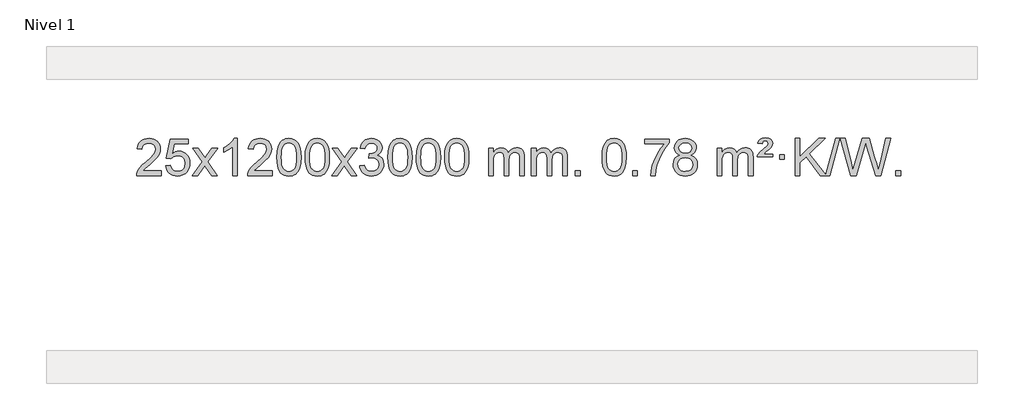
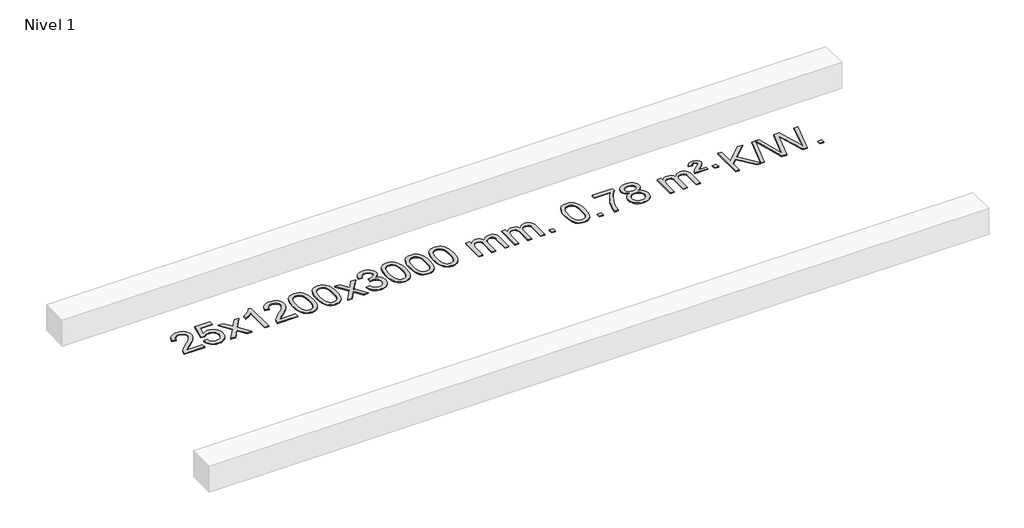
# One storey, part 6 of 6: 1 proxy.
"""IFC4 building model written with IfcOpenShell, lengths in millimetres."""

import ifcopenshell
import ifcopenshell.guid

model = None  # the IFC model being written
_history = None  # IfcOwnerHistory: only IFC2X3 demands one
_inside = {}  # id of a spatial element -> (the spatial element, [elements in it])
_under = {}  # id of a project, library or spatial element -> (it, [spatial elements below it])
_declared = {}  # id of a project -> (the project, [libraries it declares])
_typed = {}  # id of a type object -> (the type object, [elements of that type])
_made_of = {}  # id of a material, layer set ... -> (it, [elements and type objects made of it])


def new_model(schema):
    """Start an empty IFC model of exactly this schema.

    Asked for "IFC4X3", IfcOpenShell would pick the latest addendum, in which some entities
    have other attributes; the version numbers below select the first issue.
    IFC2X3 requires an IfcOwnerHistory on every rooted entity: one is made here for all.
    """
    global model, _history
    if schema == "IFC4X3":
        model = ifcopenshell.file(schema_version=(4, 3, 0, 0))
    else:
        model = ifcopenshell.file(schema=schema)
    _inside.clear()
    _under.clear()
    _declared.clear()
    _typed.clear()
    _made_of.clear()
    _history = None
    if model.schema == "IFC2X3":
        org = make("IfcOrganization", Name="unknown")
        user = make(
            "IfcPersonAndOrganization",
            ThePerson=make("IfcPerson", FamilyName="unknown"),
            TheOrganization=org,
        )
        app = make(
            "IfcApplication",
            ApplicationDeveloper=org,
            Version="unknown",
            ApplicationFullName="unknown",
            ApplicationIdentifier="unknown",
        )
        _history = make(
            "IfcOwnerHistory",
            OwningUser=user,
            OwningApplication=app,
            ChangeAction="ADDED",
            CreationDate=0,
        )
    return model


def make(cls, **values):
    """One entity of the class cls with the attributes given. An attribute that is None is left unset."""
    return model.create_entity(
        cls, **{name: value for name, value in values.items() if value is not None}
    )


def rooted(cls, **values):
    """An entity with a GlobalId (a new one), such as an element, a storey or a relation."""
    return make(cls, GlobalId=ifcopenshell.guid.new(), OwnerHistory=_history, **values)


def si_unit(unit_type, name, prefix=None):
    """IfcSIUnit, for example si_unit("LENGTHUNIT", "METRE", prefix="MILLI")."""
    return make("IfcSIUnit", UnitType=unit_type, Prefix=prefix, Name=name)


def assignment(units):
    """IfcUnitAssignment: the units of a project."""
    return None if units is None else make("IfcUnitAssignment", Units=units)


def point(xyz):
    """IfcCartesianPoint."""
    return None if xyz is None else make("IfcCartesianPoint", Coordinates=xyz)


def direction(xyz):
    """IfcDirection."""
    return None if xyz is None else make("IfcDirection", DirectionRatios=xyz)


def frame(location, z_axis=None, x_axis=None):
    """IfcAxis2Placement3D, a coordinate frame: its origin and axes. An axis left out is left unset."""
    return make(
        "IfcAxis2Placement3D",
        Location=point(location),
        Axis=direction(z_axis),
        RefDirection=direction(x_axis),
    )


def origin():
    """The frame at (0, 0, 0) with its axes left unset."""
    return frame((0.0, 0.0, 0.0))


def origin_with_axes():
    """The frame at (0, 0, 0) with the z axis (0, 0, 1) and the x axis (1, 0, 0) written out."""
    return frame((0.0, 0.0, 0.0), z_axis=(0.0, 0.0, 1.0), x_axis=(1.0, 0.0, 0.0))


def place(relative_to, where):
    """IfcLocalPlacement: puts the frame where relative to a parent placement (None: the world)."""
    return make(
        "IfcLocalPlacement", PlacementRelTo=relative_to, RelativePlacement=where
    )


def context(
    kind, dimensions, precision=None, world=None, true_north=None, identifier=None
):
    """IfcGeometricRepresentationContext, for example the 3D "Model" context."""
    return make(
        "IfcGeometricRepresentationContext",
        ContextIdentifier=identifier,
        ContextType=kind,
        CoordinateSpaceDimension=dimensions,
        Precision=precision,
        WorldCoordinateSystem=world,
        TrueNorth=true_north,
    )


def project(units=None, contexts=None):
    """IfcProject with its units and contexts."""
    return rooted(
        "IfcProject",
        Name="project",
        RepresentationContexts=contexts,
        UnitsInContext=assignment(units),
    )


def spatial(cls, under=None, at=None, **own):
    """A site, building, storey or space (cls), placed at a placement, below another one or the project."""
    s = rooted(cls, ObjectPlacement=at, **own)
    if under is not None:
        _under.setdefault(under.id(), (under, []))[1].append(s)
    return s


def polyline(points):
    """IfcPolyline through the points."""
    return make("IfcPolyline", Points=[point(p) for p in points])


def outline(outer, holes=None, kind="AREA"):
    """IfcArbitraryClosedProfileDef: a profile drawn as a closed curve; with holes, ...WithVoids."""
    if holes is None:
        return make("IfcArbitraryClosedProfileDef", ProfileType=kind, OuterCurve=outer)
    return make(
        "IfcArbitraryProfileDefWithVoids",
        ProfileType=kind,
        OuterCurve=outer,
        InnerCurves=holes,
    )


def extrude(swept, where, along, depth):
    """IfcExtrudedAreaSolid: the profile swept, set in the frame where, extruded along a direction by depth."""
    return make(
        "IfcExtrudedAreaSolid",
        SweptArea=swept,
        Position=where,
        ExtrudedDirection=direction(along),
        Depth=depth,
    )


def shape(context_of_items, identifier, shape_type, items):
    """IfcShapeRepresentation: the items that make up one representation, for example the "Body"."""
    return make(
        "IfcShapeRepresentation",
        ContextOfItems=context_of_items,
        RepresentationIdentifier=identifier,
        RepresentationType=shape_type,
        Items=items,
    )


def made_of(thing, what):
    """Note that an element or type object is made of a material, layer set ...; save() writes the relation."""
    if what is not None:
        _made_of.setdefault(what.id(), (what, []))[1].append(thing)
    return thing


def element(
    cls,
    number,
    at=None,
    inside=None,
    cuts=None,
    type_object=None,
    material=None,
    context=None,
    identifier="Body",
    shape_type=None,
    held_by="IfcProductDefinitionShape",
    body=None,
    shapes=None,
    **own,
):
    """One element of the class cls, such as IfcWall. Its Tag is "e" and its number.

    at: its placement. inside: the storey or other place that contains it. cuts: it is an
    opening in that element (IfcRelVoidsElement). A single representation is given by context,
    identifier, shape_type and body (its items); several are given by shapes. held_by: the class
    of the entity that holds the representations. save() writes the other relations.
    """
    e = rooted(cls, Tag="e%d" % number, ObjectPlacement=at, **own)
    if body is not None:
        shapes = [shape(context, identifier, shape_type, body)]
    if shapes is not None:
        e.Representation = make(held_by, Representations=shapes)
    if inside is not None:
        _inside.setdefault(inside.id(), (inside, []))[1].append(e)
    if cuts is not None:
        rooted(
            "IfcRelVoidsElement", RelatingBuildingElement=cuts, RelatedOpeningElement=e
        )
    if type_object is not None:
        _typed.setdefault(type_object.id(), (type_object, []))[1].append(e)
    return made_of(e, material)


def aggregate(whole, parts):
    """IfcRelAggregates: a whole, such as a stair, and the parts it consists of."""
    return rooted("IfcRelAggregates", RelatingObject=whole, RelatedObjects=parts)


def save(model, path):
    """Write the relations noted so far, then the file.

    IfcRelAggregates (storeys below a building ...), IfcRelContainedInSpatialStructure (elements
    in a storey), IfcRelDefinesByType, IfcRelAssociatesMaterial and IfcRelDeclares: one each for
    every whole, place, type object, material and project.
    """
    for whole, parts in _under.values():
        aggregate(whole, parts)
    for where, things in _inside.values():
        rooted(
            "IfcRelContainedInSpatialStructure",
            RelatedElements=things,
            RelatingStructure=where,
        )
    for kind, things in _typed.values():
        rooted("IfcRelDefinesByType", RelatedObjects=things, RelatingType=kind)
    for what, things in _made_of.values():
        rooted("IfcRelAssociatesMaterial", RelatedObjects=things, RelatingMaterial=what)
    for by, libraries in _declared.values():
        rooted("IfcRelDeclares", RelatingContext=by, RelatedDefinitions=libraries)
    model.write(path)


model = new_model("IFC4")

# Units and contexts
model_context = context("Model", 3, world=origin())
ifc_project = project(units=[si_unit("LENGTHUNIT", "METRE", prefix="MILLI")], contexts=[model_context])

# Site, building, storey
site = spatial("IfcSite", under=ifc_project)
building = spatial("IfcBuilding", under=site)
storey = spatial("IfcBuildingStorey", under=building, Name="Nivel 1", Elevation=0.0)

# Proxy
placement = place(None, origin())
element("IfcBuildingElementProxy", 1, Name="Texto de modelo 1", ObjectType="Texto de modelo 1", at=placement, inside=storey, context=model_context, shape_type="SweptSolid", body=[
    extrude(outline(polyline([(-22453.723944, 2333.9033514), (-22453.723944, 2283.6751963), (-22717.4217581, 2283.6751963), (-22716.3181122, 2301.3580575), (-22712.0261556, 2318.3051548), (-22699.640795, 2345.3690069), (-22681.5164754, 2371.6235186), (-22655.2987519, 2399.1043037), (-22618.6331797, 2429.8469757), (-22564.4318991, 2477.9904662), (-22531.9111307, 2513.5278669), (-22515.6507465, 2542.3698153), (-22510.2306185, 2570.4269488), (-22515.3441782, 2595.5778145), (-22530.6848574, 2616.4857746), (-22554.2660933, 2630.575655), (-22584.1013231, 2635.2722818), (-22615.4326064, 2630.6860196), (-22639.7741317, 2616.927233), (-22655.4826929, 2595.0750425), (-22660.9150837, 2566.2085686), (-22711.1432388, 2572.487088), (-22706.823691, 2598.4166373), (-22698.9663447, 2621.0720368), (-22687.5711999, 2640.4532866), (-22672.6382566, 2656.5603866), (-22654.5108713, 2669.2216586), (-22633.5324005, 2678.2654243), (-22609.7028443, 2683.6916838), (-22583.0222026, 2685.5004369), (-22556.1024376, 2683.4893487), (-22532.1441226, 2677.4560839), (-22511.1472578, 2667.4006427), (-22493.111843, 2653.3230251), (-22478.6264894, 2636.2655632), (-22468.2798083, 2617.2705895), (-22462.0717996, 2596.338104), (-22460.0024634, 2573.4681066), (-22462.2342808, 2549.4454124), (-22468.9297331, 2525.839651), (-22480.8123216, 2501.8292194), (-22498.6055474, 2476.5925146), (-22526.9692492, 2446.4629792), (-22570.5632657, 2407.774056), (-22628.3452644, 2359.4588873), (-22651.0067953, 2333.9033514), (-22453.723944, 2333.9033514)])), origin_with_axes(), (0.0, 0.0, 1.0), 10.0),
    extrude(outline(polyline([(-22403.4957889, 2390.4100258), (-22353.2676339, 2396.6885452), (-22344.0460585, 2366.5344844), (-22327.9573526, 2344.9398112), (-22305.0750925, 2331.9535768), (-22275.4728546, 2327.624832), (-22256.3429909, 2329.1300825), (-22239.46947, 2333.645834), (-22224.8522921, 2341.1720865), (-22212.491457, 2351.7088399), (-22202.6628764, 2364.7349283), (-22195.6424617, 2379.7291852), (-22190.0261299, 2415.6222052), (-22195.2868424, 2449.4182979), (-22201.8627331, 2463.3365), (-22211.06898, 2475.2681394), (-22222.93624, 2484.8392026), (-22237.49517, 2491.6756764), (-22274.6880397, 2497.1448554), (-22299.0540905, 2494.9620889), (-22318.7848282, 2488.4137894), (-22334.5424403, 2478.3828736), (-22346.9891145, 2465.7522585), (-22397.2172695, 2472.0307778), (-22353.2676339, 2679.2219175), (-22158.6335329, 2679.2219175), (-22158.6335329, 2628.9937624), (-22312.6534616, 2628.9937624), (-22334.1377701, 2518.3348583), (-22316.4119893, 2531.0390499), (-22298.2570128, 2540.1134724), (-22279.6728407, 2545.5581259), (-22260.6594729, 2547.3730104), (-22236.1983859, 2545.1227989), (-22213.7299931, 2538.3721643), (-22193.2542944, 2527.1211066), (-22174.7712898, 2511.3696259), (-22159.4704645, 2492.0803466), (-22148.5413035, 2470.2158933), (-22141.983807, 2445.7762661), (-22139.7979748, 2418.7614649), (-22141.7661435, 2392.7399451), (-22147.6706495, 2368.5333099), (-22157.5114929, 2346.1415591), (-22171.2886736, 2325.5646928), (-22192.1598454, 2304.4911859), (-22216.5136335, 2289.4386809), (-22244.3500378, 2280.4071779), (-22275.6690583, 2277.3966769), (-22301.5894106, 2279.3311231), (-22325.0020339, 2285.1344616), (-22345.9069283, 2294.8066923), (-22364.3040937, 2308.3478154), (-22379.6110504, 2325.0833805), (-22391.2453185, 2344.3389373), (-22399.206898, 2366.1144857), (-22403.4957889, 2390.4100258)])), origin_with_axes(), (0.0, 0.0, 1.0), 10.0),
    extrude(outline(polyline([(-22114.6838972, 2283.6751963), (-22007.3604565, 2432.0052168), (-22108.4053779, 2578.7656074), (-22047.9746288, 2578.7656074), (-21999.2180017, 2508.1322643), (-21976.4583689, 2474.7776301), (-21956.739894, 2502.0499486), (-21901.2142382, 2578.7656074), (-21840.7834891, 2578.7656074), (-21946.9297074, 2432.0052168), (-21844.7075637, 2283.6751963), (-21905.1383128, 2283.6751963), (-21966.6481824, 2372.8497919), (-21977.9298969, 2389.1347016), (-22054.2531482, 2283.6751963), (-22114.6838972, 2283.6751963)])), origin_with_axes(), (0.0, 0.0, 1.0), 10.0),
    extrude(outline(polyline([(-21624.9593853, 2283.6751963), (-21675.1875403, 2283.6751963), (-21675.1875403, 2596.8163506), (-21696.1568141, 2579.8569906), (-21722.7669451, 2562.9221561), (-21775.6438505, 2537.5628239), (-21775.6438505, 2585.0441268), (-21736.1946379, 2606.5039098), (-21702.0184005, 2632.0349203), (-21675.0771757, 2659.1846115), (-21657.3330008, 2685.5004369), (-21624.9593853, 2685.5004369), (-21624.9593853, 2283.6751963)])), origin_with_axes(), (0.0, 0.0, 1.0), 10.0),
    extrude(outline(polyline([(-21248.2482222, 2333.9033514), (-21248.2482222, 2283.6751963), (-21511.9460364, 2283.6751963), (-21510.8423904, 2301.3580575), (-21506.5504338, 2318.3051548), (-21494.1650733, 2345.3690069), (-21476.0407536, 2371.6235186), (-21449.8230301, 2399.1043037), (-21413.1574579, 2429.8469757), (-21358.9561773, 2477.9904662), (-21326.4354089, 2513.5278669), (-21310.1750247, 2542.3698153), (-21304.7548967, 2570.4269488), (-21309.8684564, 2595.5778145), (-21325.2091356, 2616.4857746), (-21348.7903715, 2630.575655), (-21378.6256013, 2635.2722818), (-21409.9568846, 2630.6860196), (-21434.2984099, 2616.927233), (-21450.0069711, 2595.0750425), (-21455.4393619, 2566.2085686), (-21505.667517, 2572.487088), (-21501.3479692, 2598.4166373), (-21493.4906229, 2621.0720368), (-21482.0954781, 2640.4532866), (-21467.1625348, 2656.5603866), (-21449.0351495, 2669.2216586), (-21428.0566787, 2678.2654243), (-21404.2271225, 2683.6916838), (-21377.5464808, 2685.5004369), (-21350.6267158, 2683.4893487), (-21326.6684008, 2677.4560839), (-21305.671536, 2667.4006427), (-21287.6361212, 2653.3230251), (-21273.1507676, 2636.2655632), (-21262.8040865, 2617.2705895), (-21256.5960778, 2596.338104), (-21254.5267416, 2573.4681066), (-21256.758559, 2549.4454124), (-21263.4540113, 2525.839651), (-21275.3365998, 2501.8292194), (-21293.1298256, 2476.5925146), (-21321.4935274, 2446.4629792), (-21365.0875439, 2407.774056), (-21422.8695426, 2359.4588873), (-21445.5310735, 2333.9033514), (-21248.2482222, 2333.9033514)])), origin_with_axes(), (0.0, 0.0, 1.0), 10.0),
    extrude(outline(polyline([(-21198.0200671, 2481.350455), (-21194.3289844, 2545.6684905), (-21183.2557364, 2596.9635034), (-21164.9106876, 2636.0203086), (-21153.0526246, 2651.2536888), (-21139.4042026, 2663.6237209), (-21123.9194363, 2673.1947842), (-21106.5523404, 2680.0312579), (-21066.1711601, 2685.5004369), (-21035.2200215, 2682.2630753), (-21007.5062446, 2672.5509907), (-20984.3296789, 2656.7443276), (-20966.9901742, 2635.2232309), (-20953.8935751, 2608.1716415), (-20943.4457265, 2575.7735005), (-20936.6031214, 2534.6320307), (-20934.322253, 2481.350455), (-20937.9765475, 2417.4003016), (-20948.9394309, 2366.227916), (-20967.1741152, 2327.1343227), (-20979.004587, 2311.8549571), (-20992.643812, 2299.4205457), (-21008.1469724, 2289.7851031), (-21025.5692505, 2282.9026441), (-21066.1711601, 2277.3966769), (-21093.8358861, 2279.7879099), (-21118.3613524, 2286.9616088), (-21139.7475591, 2298.9177736), (-21157.9945061, 2315.6564044), (-21175.505689, 2345.9146985), (-21188.0136769, 2383.6164717), (-21195.5184696, 2428.7617238), (-21198.0200671, 2481.350455)]), holes=[polyline([(-21147.7919121, 2481.4485569), (-21146.3203841, 2437.7840298), (-21141.9058001, 2402.4397671), (-21134.5481602, 2375.4157689), (-21124.2474644, 2356.7120351), (-21111.7885275, 2343.9863837), (-21097.9561644, 2334.8966328), (-21082.7503753, 2329.4427822), (-21066.1711601, 2327.624832), (-21049.5919448, 2329.4489136), (-21034.3861557, 2334.9211582), (-21020.5537927, 2344.041566), (-21008.0948558, 2356.8101369), (-20997.7941599, 2375.5445276), (-20990.43652, 2402.5623944), (-20986.021936, 2437.8637375), (-20984.5504081, 2481.4485569), (-20985.9728851, 2523.9573215), (-20990.2403163, 2558.6792504), (-20997.3527015, 2585.6143438), (-21007.3100408, 2604.7626017), (-21019.5605113, 2618.1105868), (-21033.5522898, 2627.6448618), (-21049.2853765, 2633.3654268), (-21066.7597713, 2635.2722818), (-21083.2531474, 2633.5922874), (-21098.2014191, 2628.5523041), (-21111.6045865, 2620.1523318), (-21123.4626494, 2608.3923707), (-21134.1067018, 2587.5457243), (-21141.7095964, 2559.4395399), (-21146.2713331, 2524.0738174), (-21147.7919121, 2481.4485569)])]), origin_with_axes(), (0.0, 0.0, 1.0), 10.0),
    extrude(outline(polyline([(-20890.3726173, 2481.350455), (-20886.6815346, 2545.6684905), (-20875.6082866, 2596.9635034), (-20857.2632377, 2636.0203086), (-20845.4051748, 2651.2536888), (-20831.7567527, 2663.6237209), (-20816.2719864, 2673.1947842), (-20798.9048906, 2680.0312579), (-20758.5237102, 2685.5004369), (-20727.5725717, 2682.2630753), (-20699.8587947, 2672.5509907), (-20676.682229, 2656.7443276), (-20659.3427243, 2635.2232309), (-20646.2461253, 2608.1716415), (-20635.7982766, 2575.7735005), (-20628.9556715, 2534.6320307), (-20626.6748032, 2481.350455), (-20630.3290976, 2417.4003016), (-20641.2919811, 2366.227916), (-20659.5266653, 2327.1343227), (-20671.3571372, 2311.8549571), (-20684.9963621, 2299.4205457), (-20700.4995225, 2289.7851031), (-20717.9218007, 2282.9026441), (-20758.5237102, 2277.3966769), (-20786.1884363, 2279.7879099), (-20810.7139026, 2286.9616088), (-20832.1001093, 2298.9177736), (-20850.3470562, 2315.6564044), (-20867.8582392, 2345.9146985), (-20880.366227, 2383.6164717), (-20887.8710197, 2428.7617238), (-20890.3726173, 2481.350455)]), holes=[polyline([(-20840.1444622, 2481.4485569), (-20838.6729342, 2437.7840298), (-20834.2583503, 2402.4397671), (-20826.9007104, 2375.4157689), (-20816.6000145, 2356.7120351), (-20804.1410776, 2343.9863837), (-20790.3087146, 2334.8966328), (-20775.1029255, 2329.4427822), (-20758.5237102, 2327.624832), (-20741.944495, 2329.4489136), (-20726.7387058, 2334.9211582), (-20712.9063428, 2344.041566), (-20700.4474059, 2356.8101369), (-20690.1467101, 2375.5445276), (-20682.7890702, 2402.5623944), (-20678.3744862, 2437.8637375), (-20676.9029582, 2481.4485569), (-20678.3254353, 2523.9573215), (-20682.5928664, 2558.6792504), (-20689.7052517, 2585.6143438), (-20699.662591, 2604.7626017), (-20711.9130614, 2618.1105868), (-20725.90484, 2627.6448618), (-20741.6379267, 2633.3654268), (-20759.1123214, 2635.2722818), (-20775.6056975, 2633.5922874), (-20790.5539693, 2628.5523041), (-20803.9571366, 2620.1523318), (-20815.8151996, 2608.3923707), (-20826.459252, 2587.5457243), (-20834.0621466, 2559.4395399), (-20838.6238833, 2524.0738174), (-20840.1444622, 2481.4485569)])]), origin_with_axes(), (0.0, 0.0, 1.0), 10.0),
    extrude(outline(polyline([(-20601.5607256, 2283.6751963), (-20494.2372849, 2432.0052168), (-20595.2822062, 2578.7656074), (-20534.8514572, 2578.7656074), (-20486.0948301, 2508.1322643), (-20463.3351973, 2474.7776301), (-20443.6167224, 2502.0499486), (-20388.0910666, 2578.7656074), (-20327.6603175, 2578.7656074), (-20433.8065358, 2432.0052168), (-20331.5843921, 2283.6751963), (-20392.0151412, 2283.6751963), (-20453.5250108, 2372.8497919), (-20464.8067253, 2389.1347016), (-20541.1299765, 2283.6751963), (-20601.5607256, 2283.6751963)])), origin_with_axes(), (0.0, 0.0, 1.0), 10.0),
    extrude(outline(polyline([(-20300.1917952, 2390.4100258), (-20249.9636401, 2396.6885452), (-20238.7187138, 2365.12427), (-20222.2498631, 2343.8116398), (-20199.7477478, 2331.6715339), (-20170.4030273, 2327.624832), (-20135.9692725, 2333.1921129), (-20121.6954511, 2340.1512139), (-20109.383667, 2349.8939554), (-20092.3875188, 2374.8118292), (-20086.7221361, 2405.0272038), (-20092.3384679, 2433.7097367), (-20109.1874633, 2456.9721415), (-20134.6939483, 2472.3863971), (-20166.2827489, 2477.5244823), (-20201.5013186, 2472.0307778), (-20195.9095123, 2522.2589329), (-20187.8651593, 2521.6703217), (-20157.7724121, 2525.2755653), (-20130.8679755, 2536.0912959), (-20119.7947275, 2544.270539), (-20111.8852646, 2554.3872938), (-20107.1395868, 2566.4415605), (-20105.5576943, 2580.4333391), (-20110.1439565, 2602.1261141), (-20123.9027431, 2619.7231362), (-20144.8965423, 2631.3849954), (-20171.1878422, 2635.2722818), (-20197.5281931, 2631.3482072), (-20219.0615525, 2619.5759834), (-20234.7823764, 2599.9556103), (-20243.6851207, 2572.487088), (-20293.9132758, 2578.7656074), (-20287.9597188, 2602.7453821), (-20279.1244196, 2623.86794), (-20267.407378, 2642.133281), (-20252.8085942, 2657.5414053), (-20235.7879205, 2669.7734816), (-20216.8052096, 2678.510679), (-20195.8604613, 2683.7529974), (-20172.9536758, 2685.5004369), (-20141.3771379, 2682.0546089), (-20112.3757739, 2671.7171248), (-20087.923884, 2655.4076897), (-20069.9957681, 2634.0460085), (-20058.9960964, 2609.434703), (-20055.3295392, 2583.376395), (-20058.8121554, 2559.0961834), (-20069.2600041, 2537.0723146), (-20086.5259324, 2518.3103328), (-20110.4627875, 2503.8157822), (-20079.0211397, 2491.1115907), (-20055.7219466, 2469.4801293), (-20041.3009724, 2440.0986207), (-20036.493981, 2404.144287), (-20038.8974767, 2378.6623275), (-20046.1079638, 2355.1914562), (-20058.1254423, 2333.7316731), (-20074.9499123, 2314.2829783), (-20095.4470708, 2298.1452214), (-20118.482615, 2286.6182523), (-20144.0565451, 2279.7020708), (-20172.1688608, 2277.3966769), (-20197.577244, 2279.3648456), (-20220.7292842, 2285.2693516), (-20241.6249815, 2295.110195), (-20260.264336, 2308.8873757), (-20275.8931894, 2325.7915534), (-20287.7573837, 2345.0133876), (-20295.856919, 2366.5528785), (-20300.1917952, 2390.4100258)])), origin_with_axes(), (0.0, 0.0, 1.0), 10.0),
    extrude(outline(polyline([(-19992.5443453, 2481.350455), (-19988.8532627, 2545.6684905), (-19977.7800146, 2596.9635034), (-19959.4349658, 2636.0203086), (-19947.5769028, 2651.2536888), (-19933.9284808, 2663.6237209), (-19918.4437145, 2673.1947842), (-19901.0766186, 2680.0312579), (-19860.6954383, 2685.5004369), (-19829.7442997, 2682.2630753), (-19802.0305228, 2672.5509907), (-19778.8539571, 2656.7443276), (-19761.5144524, 2635.2232309), (-19748.4178533, 2608.1716415), (-19737.9700047, 2575.7735005), (-19731.1273996, 2534.6320307), (-19728.8465312, 2481.350455), (-19732.5008257, 2417.4003016), (-19743.4637091, 2366.227916), (-19761.6983934, 2327.1343227), (-19773.5288652, 2311.8549571), (-19787.1680902, 2299.4205457), (-19802.6712506, 2289.7851031), (-19820.0935287, 2282.9026441), (-19860.6954383, 2277.3966769), (-19888.3601643, 2279.7879099), (-19912.8856306, 2286.9616088), (-19934.2718373, 2298.9177736), (-19952.5187843, 2315.6564044), (-19970.0299672, 2345.9146985), (-19982.5379551, 2383.6164717), (-19990.0427478, 2428.7617238), (-19992.5443453, 2481.350455)]), holes=[polyline([(-19942.3161903, 2481.4485569), (-19940.8446623, 2437.7840298), (-19936.4300783, 2402.4397671), (-19929.0724384, 2375.4157689), (-19918.7717426, 2356.7120351), (-19906.3128057, 2343.9863837), (-19892.4804427, 2334.8966328), (-19877.2746535, 2329.4427822), (-19860.6954383, 2327.624832), (-19844.116223, 2329.4489136), (-19828.9104339, 2334.9211582), (-19815.0780709, 2344.041566), (-19802.619134, 2356.8101369), (-19792.3184381, 2375.5445276), (-19784.9607982, 2402.5623944), (-19780.5462143, 2437.8637375), (-19779.0746863, 2481.4485569), (-19780.4971633, 2523.9573215), (-19784.7645945, 2558.6792504), (-19791.8769797, 2585.6143438), (-19801.834319, 2604.7626017), (-19814.0847895, 2618.1105868), (-19828.076568, 2627.6448618), (-19843.8096547, 2633.3654268), (-19861.2840495, 2635.2722818), (-19877.7774256, 2633.5922874), (-19892.7256973, 2628.5523041), (-19906.1288647, 2620.1523318), (-19917.9869276, 2608.3923707), (-19928.63098, 2587.5457243), (-19936.2338746, 2559.4395399), (-19940.7956114, 2524.0738174), (-19942.3161903, 2481.4485569)])]), origin_with_axes(), (0.0, 0.0, 1.0), 10.0),
    extrude(outline(polyline([(-19684.8968955, 2481.350455), (-19681.2058128, 2545.6684905), (-19670.1325648, 2596.9635034), (-19651.7875159, 2636.0203086), (-19639.929453, 2651.2536888), (-19626.2810309, 2663.6237209), (-19610.7962646, 2673.1947842), (-19593.4291688, 2680.0312579), (-19553.0479884, 2685.5004369), (-19522.0968499, 2682.2630753), (-19494.3830729, 2672.5509907), (-19471.2065072, 2656.7443276), (-19453.8670025, 2635.2232309), (-19440.7704035, 2608.1716415), (-19430.3225548, 2575.7735005), (-19423.4799497, 2534.6320307), (-19421.1990814, 2481.350455), (-19424.8533758, 2417.4003016), (-19435.8162593, 2366.227916), (-19454.0509435, 2327.1343227), (-19465.8814154, 2311.8549571), (-19479.5206403, 2299.4205457), (-19495.0238007, 2289.7851031), (-19512.4460789, 2282.9026441), (-19553.0479884, 2277.3966769), (-19580.7127145, 2279.7879099), (-19605.2381808, 2286.9616088), (-19626.6243875, 2298.9177736), (-19644.8713344, 2315.6564044), (-19662.3825174, 2345.9146985), (-19674.8905052, 2383.6164717), (-19682.3952979, 2428.7617238), (-19684.8968955, 2481.350455)]), holes=[polyline([(-19634.6687404, 2481.4485569), (-19633.1972124, 2437.7840298), (-19628.7826285, 2402.4397671), (-19621.4249886, 2375.4157689), (-19611.1242927, 2356.7120351), (-19598.6653558, 2343.9863837), (-19584.8329928, 2334.8966328), (-19569.6272037, 2329.4427822), (-19553.0479884, 2327.624832), (-19536.4687732, 2329.4489136), (-19521.2629841, 2334.9211582), (-19507.430621, 2344.041566), (-19494.9716841, 2356.8101369), (-19484.6709883, 2375.5445276), (-19477.3133484, 2402.5623944), (-19472.8987644, 2437.8637375), (-19471.4272364, 2481.4485569), (-19472.8497135, 2523.9573215), (-19477.1171446, 2558.6792504), (-19484.2295299, 2585.6143438), (-19494.1868692, 2604.7626017), (-19506.4373396, 2618.1105868), (-19520.4291182, 2627.6448618), (-19536.1622049, 2633.3654268), (-19553.6365996, 2635.2722818), (-19570.1299757, 2633.5922874), (-19585.0782475, 2628.5523041), (-19598.4814148, 2620.1523318), (-19610.3394778, 2608.3923707), (-19620.9835302, 2587.5457243), (-19628.5864248, 2559.4395399), (-19633.1481615, 2524.0738174), (-19634.6687404, 2481.4485569)])]), origin_with_axes(), (0.0, 0.0, 1.0), 10.0),
    extrude(outline(polyline([(-19377.2494457, 2481.350455), (-19373.558363, 2545.6684905), (-19362.4851149, 2596.9635034), (-19344.1400661, 2636.0203086), (-19332.2820031, 2651.2536888), (-19318.6335811, 2663.6237209), (-19303.1488148, 2673.1947842), (-19285.7817189, 2680.0312579), (-19245.4005386, 2685.5004369), (-19214.4494001, 2682.2630753), (-19186.7356231, 2672.5509907), (-19163.5590574, 2656.7443276), (-19146.2195527, 2635.2232309), (-19133.1229537, 2608.1716415), (-19122.675105, 2575.7735005), (-19115.8324999, 2534.6320307), (-19113.5516315, 2481.350455), (-19117.205926, 2417.4003016), (-19128.1688095, 2366.227916), (-19146.4034937, 2327.1343227), (-19158.2339655, 2311.8549571), (-19171.8731905, 2299.4205457), (-19187.3763509, 2289.7851031), (-19204.7986291, 2282.9026441), (-19245.4005386, 2277.3966769), (-19273.0652646, 2279.7879099), (-19297.590731, 2286.9616088), (-19318.9769376, 2298.9177736), (-19337.2238846, 2315.6564044), (-19354.7350676, 2345.9146985), (-19367.2430554, 2383.6164717), (-19374.7478481, 2428.7617238), (-19377.2494457, 2481.350455)]), holes=[polyline([(-19327.0212906, 2481.4485569), (-19325.5497626, 2437.7840298), (-19321.1351787, 2402.4397671), (-19313.7775388, 2375.4157689), (-19303.4768429, 2356.7120351), (-19291.017906, 2343.9863837), (-19277.185543, 2334.8966328), (-19261.9797538, 2329.4427822), (-19245.4005386, 2327.624832), (-19228.8213234, 2329.4489136), (-19213.6155342, 2334.9211582), (-19199.7831712, 2344.041566), (-19187.3242343, 2356.8101369), (-19177.0235384, 2375.5445276), (-19169.6658985, 2402.5623944), (-19165.2513146, 2437.8637375), (-19163.7797866, 2481.4485569), (-19165.2022637, 2523.9573215), (-19169.4696948, 2558.6792504), (-19176.58208, 2585.6143438), (-19186.5394194, 2604.7626017), (-19198.7898898, 2618.1105868), (-19212.7816684, 2627.6448618), (-19228.514755, 2633.3654268), (-19245.9891498, 2635.2722818), (-19262.4825259, 2633.5922874), (-19277.4307976, 2628.5523041), (-19290.833965, 2620.1523318), (-19302.692028, 2608.3923707), (-19313.3360804, 2587.5457243), (-19320.9389749, 2559.4395399), (-19325.5007117, 2524.0738174), (-19327.0212906, 2481.4485569)])]), origin_with_axes(), (0.0, 0.0, 1.0), 10.0),
    extrude(outline(polyline([(-18900.0819725, 2283.6751963), (-18900.0819725, 2578.7656074), (-18849.8538174, 2578.7656074), (-18849.8538174, 2530.205184), (-18834.7461301, 2552.5110956), (-18815.3219608, 2569.9854904), (-18792.2434969, 2581.2794677), (-18766.1729262, 2585.0441268), (-18738.23842, 2581.2058913), (-18715.8466693, 2569.6911848), (-18699.1203012, 2551.2602969), (-18688.1819432, 2526.6735169), (-18669.8736826, 2552.2106587), (-18648.990248, 2570.4514743), (-18625.5316395, 2581.3959636), (-18599.4978569, 2585.0441268), (-18579.3900402, 2583.5266135), (-18561.7409015, 2578.9740738), (-18546.5504408, 2571.3865077), (-18533.8186581, 2560.7639151), (-18523.7540198, 2546.9836687), (-18516.5649925, 2529.9231411), (-18512.2515761, 2509.5823325), (-18510.8137706, 2485.9612427), (-18510.8137706, 2283.6751963), (-18561.0419257, 2283.6751963), (-18561.0419257, 2464.3788323), (-18562.2068854, 2489.4315962), (-18565.7017643, 2506.3173798), (-18572.2500638, 2517.8811372), (-18582.5752852, 2526.9678224), (-18595.8558252, 2532.8539344), (-18611.2700808, 2534.8159717), (-18638.4810857, 2529.7882511), (-18660.66437, 2514.7050893), (-18669.269743, 2503.1352005), (-18675.416438, 2488.5364167), (-18680.333794, 2450.2521637), (-18680.333794, 2283.6751963), (-18730.5619491, 2283.6751963), (-18730.5619491, 2469.9706387), (-18733.4682168, 2498.3711287), (-18742.1870201, 2518.6291639), (-18757.5276993, 2530.7692697), (-18780.2995948, 2534.8159717), (-18799.6501878, 2532.1181704), (-18817.4802018, 2524.0247665), (-18832.1954816, 2510.7319637), (-18842.2018719, 2492.4359658), (-18847.940831, 2467.0521082), (-18849.8538174, 2432.4957261), (-18849.8538174, 2283.6751963), (-18900.0819725, 2283.6751963)])), origin_with_axes(), (0.0, 0.0, 1.0), 10.0),
    extrude(outline(polyline([(-18435.471538, 2283.6751963), (-18435.471538, 2578.7656074), (-18385.2433829, 2578.7656074), (-18385.2433829, 2530.205184), (-18370.1356957, 2552.5110956), (-18350.7115263, 2569.9854904), (-18327.6330625, 2581.2794677), (-18301.5624918, 2585.0441268), (-18273.6279856, 2581.2058913), (-18251.2362348, 2569.6911848), (-18234.5098668, 2551.2602969), (-18223.5715088, 2526.6735169), (-18205.2632482, 2552.2106587), (-18184.3798136, 2570.4514743), (-18160.921205, 2581.3959636), (-18134.8874225, 2585.0441268), (-18114.7796058, 2583.5266135), (-18097.1304671, 2578.9740738), (-18081.9400063, 2571.3865077), (-18069.2082236, 2560.7639151), (-18059.1435854, 2546.9836687), (-18051.954558, 2529.9231411), (-18047.6411417, 2509.5823325), (-18046.2033362, 2485.9612427), (-18046.2033362, 2283.6751963), (-18096.4314913, 2283.6751963), (-18096.4314913, 2464.3788323), (-18097.5964509, 2489.4315962), (-18101.0913299, 2506.3173798), (-18107.6396294, 2517.8811372), (-18117.9648507, 2526.9678224), (-18131.2453907, 2532.8539344), (-18146.6596463, 2534.8159717), (-18173.8706512, 2529.7882511), (-18196.0539356, 2514.7050893), (-18204.6593086, 2503.1352005), (-18210.8060036, 2488.5364167), (-18215.7233596, 2450.2521637), (-18215.7233596, 2283.6751963), (-18265.9515146, 2283.6751963), (-18265.9515146, 2469.9706387), (-18268.8577824, 2498.3711287), (-18277.5765857, 2518.6291639), (-18292.9172649, 2530.7692697), (-18315.6891604, 2534.8159717), (-18335.0397533, 2532.1181704), (-18352.8697674, 2524.0247665), (-18367.5850472, 2510.7319637), (-18377.5914374, 2492.4359658), (-18383.3303966, 2467.0521082), (-18385.2433829, 2432.4957261), (-18385.2433829, 2283.6751963), (-18435.471538, 2283.6751963)])), origin_with_axes(), (0.0, 0.0, 1.0), 10.0),
    extrude(outline(polyline([(-17958.3040648, 2283.6751963), (-17958.3040648, 2333.9033514), (-17908.0759097, 2333.9033514), (-17908.0759097, 2283.6751963), (-17958.3040648, 2283.6751963)])), origin_with_axes(), (0.0, 0.0, 1.0), 10.0),
    extrude(outline(polyline([(-17669.4921731, 2481.350455), (-17665.8010904, 2545.6684905), (-17654.7278424, 2596.9635034), (-17636.3827936, 2636.0203086), (-17624.5247306, 2651.2536888), (-17610.8763086, 2663.6237209), (-17595.3915423, 2673.1947842), (-17578.0244464, 2680.0312579), (-17537.6432661, 2685.5004369), (-17506.6921275, 2682.2630753), (-17478.9783506, 2672.5509907), (-17455.8017849, 2656.7443276), (-17438.4622802, 2635.2232309), (-17425.3656811, 2608.1716415), (-17414.9178325, 2575.7735005), (-17408.0752274, 2534.6320307), (-17405.794359, 2481.350455), (-17409.4486535, 2417.4003016), (-17420.4115369, 2366.227916), (-17438.6462212, 2327.1343227), (-17450.476693, 2311.8549571), (-17464.115918, 2299.4205457), (-17479.6190784, 2289.7851031), (-17497.0413565, 2282.9026441), (-17537.6432661, 2277.3966769), (-17565.3079921, 2279.7879099), (-17589.8334584, 2286.9616088), (-17611.2196651, 2298.9177736), (-17629.4666121, 2315.6564044), (-17646.977795, 2345.9146985), (-17659.4857829, 2383.6164717), (-17666.9905756, 2428.7617238), (-17669.4921731, 2481.350455)]), holes=[polyline([(-17619.2640181, 2481.4485569), (-17617.7924901, 2437.7840298), (-17613.3779061, 2402.4397671), (-17606.0202662, 2375.4157689), (-17595.7195704, 2356.7120351), (-17583.2606335, 2343.9863837), (-17569.4282704, 2334.8966328), (-17554.2224813, 2329.4427822), (-17537.6432661, 2327.624832), (-17521.0640508, 2329.4489136), (-17505.8582617, 2334.9211582), (-17492.0258987, 2344.041566), (-17479.5669618, 2356.8101369), (-17469.2662659, 2375.5445276), (-17461.908626, 2402.5623944), (-17457.494042, 2437.8637375), (-17456.0225141, 2481.4485569), (-17457.4449911, 2523.9573215), (-17461.7124223, 2558.6792504), (-17468.8248075, 2585.6143438), (-17478.7821468, 2604.7626017), (-17491.0326173, 2618.1105868), (-17505.0243958, 2627.6448618), (-17520.7574825, 2633.3654268), (-17538.2318772, 2635.2722818), (-17554.7252534, 2633.5922874), (-17569.6735251, 2628.5523041), (-17583.0766925, 2620.1523318), (-17594.9347554, 2608.3923707), (-17605.5788078, 2587.5457243), (-17613.1817024, 2559.4395399), (-17617.7434391, 2524.0738174), (-17619.2640181, 2481.4485569)])]), origin_with_axes(), (0.0, 0.0, 1.0), 10.0),
    extrude(outline(polyline([(-17336.7306458, 2283.6751963), (-17336.7306458, 2333.9033514), (-17286.5024907, 2333.9033514), (-17286.5024907, 2283.6751963), (-17336.7306458, 2283.6751963)])), origin_with_axes(), (0.0, 0.0, 1.0), 10.0),
    extrude(outline(polyline([(-17204.8817387, 2628.9937624), (-17204.8817387, 2679.2219175), (-16941.1839245, 2679.2219175), (-16941.1839245, 2638.6077453), (-16978.7692017, 2591.0406033), (-17015.9865969, 2530.5485405), (-17048.8139336, 2462.649787), (-17073.2290353, 2392.8625725), (-17085.1974629, 2340.6478546), (-17091.8683898, 2283.6751963), (-17142.0965448, 2283.6751963), (-17136.664154, 2335.4484558), (-17122.1328152, 2396.9828508), (-17098.8949359, 2462.2083286), (-17067.3429234, 2525.0548361), (-17030.505673, 2581.8680789), (-16991.4120796, 2628.9937624), (-17204.8817387, 2628.9937624)])), origin_with_axes(), (0.0, 0.0, 1.0), 10.0),
    extrude(outline(polyline([(-16824.0502973, 2504.9930046), (-16850.9424711, 2518.2367564), (-16869.8148175, 2536.1893978), (-16880.9616419, 2558.4830467), (-16884.6772501, 2584.7498212), (-16882.6538991, 2605.2347169), (-16876.5838462, 2624.0150928), (-16866.4670913, 2641.0909487), (-16852.3036345, 2656.4622848), (-16834.7740574, 2669.1664763), (-16814.5589418, 2678.2408989), (-16791.6582876, 2683.6855524), (-16766.0720948, 2685.5004369), (-16740.3632747, 2683.6426328), (-16717.2909423, 2678.0692206), (-16696.8550974, 2668.7802002), (-16679.0557402, 2655.7755717), (-16664.634766, 2640.1037987), (-16654.3340702, 2622.8133449), (-16648.1536527, 2603.9042104), (-16646.0935135, 2583.376395), (-16649.7600707, 2557.9557492), (-16660.7597424, 2536.042245), (-16679.2151558, 2518.1999682), (-16705.2489383, 2504.9930046), (-16674.334588, 2489.0637142), (-16651.8324726, 2465.6051057), (-16638.1104742, 2435.7453504), (-16633.5364747, 2400.6126198), (-16635.8050803, 2375.559856), (-16642.6108973, 2352.5917567), (-16653.9539254, 2331.7083221), (-16669.8341649, 2312.9095522), (-16689.4177498, 2297.3726693), (-16711.8708142, 2286.2748957), (-16737.1933582, 2279.6162316), (-16765.3853818, 2277.3966769), (-16793.5774053, 2279.6254287), (-16818.8999493, 2286.3116839), (-16841.3530138, 2297.4554427), (-16860.9365987, 2313.056705), (-16876.8168381, 2331.9872993), (-16888.1598663, 2353.1190543), (-16894.9656832, 2376.4519698), (-16897.2342889, 2401.986046), (-16892.4763484, 2438.4799399), (-16878.202527, 2468.4991107), (-16855.1485886, 2491.0134888), (-16824.0502973, 2504.9930046)]), holes=[polyline([(-16847.0061338, 2403.7518795), (-16844.9092064, 2384.5361766), (-16838.6184243, 2365.9336104), (-16827.005616, 2349.7100144), (-16808.94261, 2337.6312223), (-16787.3111487, 2330.1264296), (-16764.9929743, 2327.624832), (-16730.8044742, 2332.8855445), (-16716.9107976, 2339.4614352), (-16705.1508364, 2348.6676821), (-16689.1111814, 2372.5677491), (-16683.7646298, 2402.1822497), (-16689.2828597, 2432.2995224), (-16705.8375495, 2456.7268868), (-16717.9163417, 2466.1691914), (-16732.0797985, 2472.9136946), (-16766.660706, 2478.3092972), (-16800.3709595, 2472.987271), (-16814.1082864, 2466.3347383), (-16825.7670799, 2457.0211924), (-16841.6963703, 2433.0598118), (-16847.0061338, 2403.7518795)]), polyline([(-16834.449095, 2583.2782932), (-16829.9977229, 2561.3525263), (-16816.6436064, 2543.8413433), (-16794.7791532, 2532.363425), (-16764.7967706, 2528.5374523), (-16735.5133638, 2532.3388996), (-16713.9800043, 2543.7432414), (-16700.7362525, 2560.6658132), (-16696.3216686, 2581.0219503), (-16700.8834053, 2602.1506395), (-16714.5686155, 2619.6250343), (-16736.3962806, 2631.3604699), (-16765.3853818, 2635.2722818), (-16794.558424, 2631.4463091), (-16816.3493008, 2619.9683908), (-16829.9241465, 2603.1439209), (-16834.449095, 2583.2782932)])]), origin_with_axes(), (0.0, 0.0, 1.0), 10.0),
    extrude(outline(polyline([(-16420.0668156, 2283.6751963), (-16420.0668156, 2578.7656074), (-16369.8386606, 2578.7656074), (-16369.8386606, 2530.205184), (-16354.7309733, 2552.5110956), (-16335.306804, 2569.9854904), (-16312.2283401, 2581.2794677), (-16286.1577694, 2585.0441268), (-16258.2232632, 2581.2058913), (-16235.8315125, 2569.6911848), (-16219.1051444, 2551.2602969), (-16208.1667864, 2526.6735169), (-16189.8585258, 2552.2106587), (-16168.9750912, 2570.4514743), (-16145.5164826, 2581.3959636), (-16119.4827001, 2585.0441268), (-16099.3748834, 2583.5266135), (-16081.7257447, 2578.9740738), (-16066.535284, 2571.3865077), (-16053.8035012, 2560.7639151), (-16043.738863, 2546.9836687), (-16036.5498357, 2529.9231411), (-16032.2364193, 2509.5823325), (-16030.7986138, 2485.9612427), (-16030.7986138, 2283.6751963), (-16081.0267689, 2283.6751963), (-16081.0267689, 2464.3788323), (-16082.1917285, 2489.4315962), (-16085.6866075, 2506.3173798), (-16092.234907, 2517.8811372), (-16102.5601283, 2526.9678224), (-16115.8406684, 2532.8539344), (-16131.254924, 2534.8159717), (-16158.4659289, 2529.7882511), (-16180.6492132, 2514.7050893), (-16189.2545862, 2503.1352005), (-16195.4012812, 2488.5364167), (-16200.3186372, 2450.2521637), (-16200.3186372, 2283.6751963), (-16250.5467923, 2283.6751963), (-16250.5467923, 2469.9706387), (-16253.45306, 2498.3711287), (-16262.1718633, 2518.6291639), (-16277.5125425, 2530.7692697), (-16300.284438, 2534.8159717), (-16319.635031, 2532.1181704), (-16337.465045, 2524.0247665), (-16352.1803248, 2510.7319637), (-16362.1867151, 2492.4359658), (-16367.9256742, 2467.0521082), (-16369.8386606, 2432.4957261), (-16369.8386606, 2283.6751963), (-16420.0668156, 2283.6751963)])), origin_with_axes(), (0.0, 0.0, 1.0), 10.0),
    extrude(outline(polyline([(-15986.8489781, 2484.5878166), (-15983.0230054, 2500.4067424), (-15974.6843468, 2516.2747191), (-15953.1755128, 2541.4133221), (-15921.2188302, 2569.1516246), (-15877.0729908, 2606.5284353), (-15869.9360801, 2618.0554045), (-15867.5571098, 2629.8766792), (-15869.4455707, 2641.9677341), (-15875.1109535, 2651.7533952), (-15884.4796816, 2658.2281183), (-15897.4781788, 2660.3863594), (-15909.9125902, 2658.7676786), (-15918.7662835, 2653.9116363), (-15925.1919557, 2644.4448062), (-15930.3423037, 2628.9937624), (-15980.5704587, 2635.2722818), (-15969.7302026, 2660.4844612), (-15953.1019364, 2678.0446951), (-15929.3367595, 2688.345391), (-15897.0857713, 2691.7789563), (-15861.3031159, 2687.6464152), (-15836.5569204, 2675.248792), (-15822.1359461, 2656.9160059), (-15817.3289547, 2634.9779762), (-15821.4247076, 2612.0711907), (-15833.7119663, 2590.4397294), (-15854.2397816, 2570.6231525), (-15890.70915, 2542.566019), (-15916.3137369, 2515.9804135), (-15817.3289547, 2515.9804135), (-15817.3289547, 2484.5878166), (-15986.8489781, 2484.5878166)])), origin_with_axes(), (0.0, 0.0, 1.0), 10.0),
    extrude(outline(polyline([(-15741.9867221, 2459.4737391), (-15741.9867221, 2509.7018941), (-15691.7585671, 2509.7018941), (-15691.7585671, 2459.4737391), (-15741.9867221, 2459.4737391)])), origin_with_axes(), (0.0, 0.0, 1.0), 10.0),
    extrude(outline(polyline([(-15301.1169391, 2283.6751963), (-15454.5482566, 2486.3536502), (-15522.2385437, 2421.8026228), (-15522.2385437, 2283.6751963), (-15572.4666988, 2283.6751963), (-15572.4666988, 2685.5004369), (-15522.2385437, 2685.5004369), (-15522.2385437, 2488.8061968), (-15316.2246264, 2685.5004369), (-15245.9836908, 2685.5004369), (-15418.9372794, 2520.2968956), (-15244.2836696, 2289.7197161), (-15132.9703419, 2685.5004369), (-15087.64728, 2685.5004369), (-15200.660629, 2283.6751963), (-15239.7051714, 2283.6751963), (-15245.9836908, 2283.6751963), (-15301.1169391, 2283.6751963)])), origin_with_axes(), (0.0, 0.0, 1.0), 10.0),
    extrude(outline(polyline([(-14973.1624031, 2283.6751963), (-15082.7421868, 2685.5004369), (-15030.9444019, 2685.5004369), (-14967.3743931, 2421.4102153), (-14947.75402, 2339.8875652), (-14926.7602208, 2411.9924362), (-14847.1015061, 2685.5004369), (-14772.4459866, 2685.5004369), (-14714.565886, 2487.236567), (-14689.7706395, 2413.6601679), (-14671.4991671, 2339.8875652), (-14652.4674052, 2419.0557705), (-14588.3087853, 2685.5004369), (-14536.5110003, 2685.5004369), (-14646.1888858, 2283.6751963), (-14699.8506062, 2283.6751963), (-14796.186638, 2593.6770909), (-14809.6265936, 2636.9400135), (-14824.7342808, 2584.847923), (-14912.5354503, 2283.6751963), (-14973.1624031, 2283.6751963)])), origin_with_axes(), (0.0, 0.0, 1.0), 10.0),
    extrude(outline(polyline([(-14480.0043259, 2283.6751963), (-14480.0043259, 2333.9033514), (-14429.7761708, 2333.9033514), (-14429.7761708, 2283.6751963), (-14480.0043259, 2283.6751963)])), origin_with_axes(), (0.0, 0.0, 1.0), 10.0),
])

save(model, "model.ifc")
